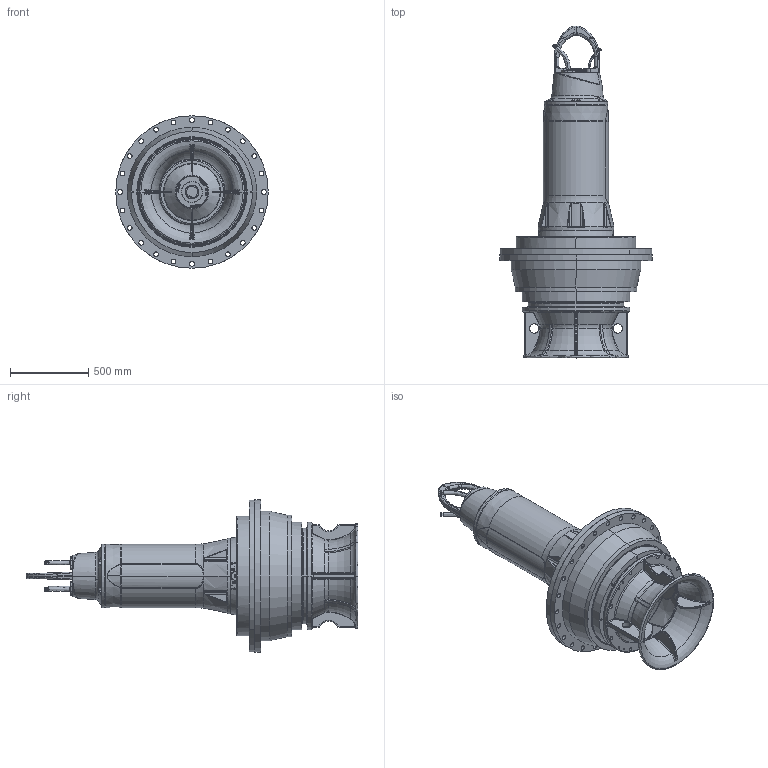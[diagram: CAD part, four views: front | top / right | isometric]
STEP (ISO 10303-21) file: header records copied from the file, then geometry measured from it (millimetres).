
FILE_DESCRIPTION (( 'STEP AP214' ), '1' );
FILE_NAME ('SE5 AFLC 0801-0803 A.STEP', '2020-09-25T06:46:29', ( '' ), ( '' ), 'SwSTEP 2.0', 'SolidWorks 2017', '' );
FILE_SCHEMA (( 'AUTOMOTIVE_DESIGN' ));
Length unit declared in the file: millimetre
Products named in the file (1): SE5 AFLC 0801-0803 A
Bounding box: 975 x 2123.97 x 975 mm (x, y, z)
Volume: 116236323.6 mm3; surface area: 13214425.3 mm2
Topology: 30 solids, 30 shells, 4460 faces, 10821 edges, 6317 vertices
Faces by surface type: bspline 1517, cylinder 1088, plane 789, torus 536, cone 459, sphere 71
Entity records: 336593 total; most frequent: CARTESIAN_POINT 193859, ORIENTED_EDGE 21126, DIRECTION 17383, EDGE_CURVE 10563, AXIS2_PLACEMENT_3D 7253, VERTEX_POINT 6316, EDGE_LOOP 4883, UNCERTAINTY_MEASURE_WITH_UNIT 4492
